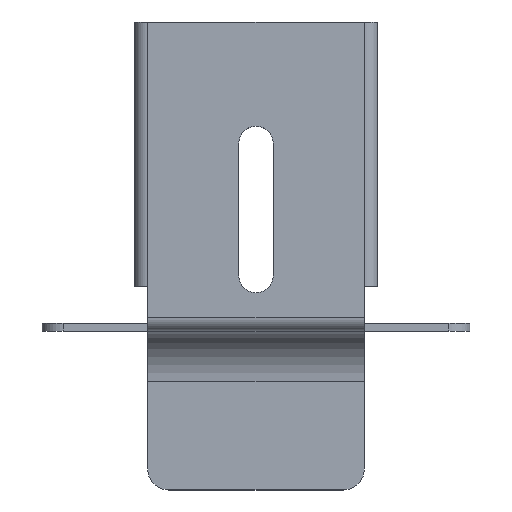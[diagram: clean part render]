
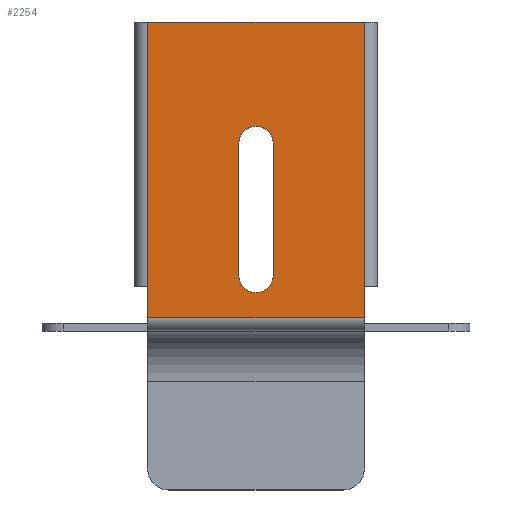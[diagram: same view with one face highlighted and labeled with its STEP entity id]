
A CAD part, top view. The second image highlights one B-rep face of the part: STEP entity #2254.
In plain terms, the highlighted planar face has unit normal (0, 0, 1).
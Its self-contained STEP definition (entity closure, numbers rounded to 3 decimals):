
#8 = VECTOR ( 'NONE', #2441, 1000. ) ;
#11 = DIRECTION ( 'NONE',  ( 0., 1., 0. ) ) ;
#98 = LINE ( 'NONE', #760, #680 ) ;
#123 = ORIENTED_EDGE ( 'NONE', *, *, #454, .T. ) ;
#142 = VERTEX_POINT ( 'NONE', #2347 ) ;
#210 = VERTEX_POINT ( 'NONE', #329 ) ;
#226 = LINE ( 'NONE', #649, #1685 ) ;
#234 = ORIENTED_EDGE ( 'NONE', *, *, #2168, .T. ) ;
#242 = EDGE_CURVE ( 'NONE', #142, #1368, #98, .T. ) ;
#329 = CARTESIAN_POINT ( 'NONE',  ( 3.25, -23., 0. ) ) ;
#334 = VERTEX_POINT ( 'NONE', #958 ) ;
#360 = LINE ( 'NONE', #547, #2472 ) ;
#435 = ORIENTED_EDGE ( 'NONE', *, *, #1743, .F. ) ;
#454 = EDGE_CURVE ( 'NONE', #563, #2051, #1193, .T. ) ;
#459 = CARTESIAN_POINT ( 'NONE',  ( 20.5, -25., 0. ) ) ;
#512 = CARTESIAN_POINT ( 'NONE',  ( 20.5, -25., 0. ) ) ;
#547 = CARTESIAN_POINT ( 'NONE',  ( -20.5, -31., 0. ) ) ;
#555 = DIRECTION ( 'NONE',  ( 1., 0., 0. ) ) ;
#563 = VERTEX_POINT ( 'NONE', #2475 ) ;
#583 = DIRECTION ( 'NONE',  ( 0., -1., 0. ) ) ;
#613 = DIRECTION ( 'NONE',  ( -1., 0., 0. ) ) ;
#616 = CARTESIAN_POINT ( 'NONE',  ( -20.5, 25., 0. ) ) ;
#645 = AXIS2_PLACEMENT_3D ( 'NONE', #1802, #797, #555 ) ;
#649 = CARTESIAN_POINT ( 'NONE',  ( 20.5, -31., 0. ) ) ;
#657 = EDGE_LOOP ( 'NONE', ( #123, #2482, #1576, #1831, #234, #1471 ) ) ;
#680 = VECTOR ( 'NONE', #1602, 1000. ) ;
#760 = CARTESIAN_POINT ( 'NONE',  ( -3.25, 2., 0. ) ) ;
#797 = DIRECTION ( 'NONE',  ( 0., 0., 1. ) ) ;
#810 = EDGE_CURVE ( 'NONE', #1855, #563, #1125, .T. ) ;
#862 = VECTOR ( 'NONE', #583, 1000. ) ;
#874 = LINE ( 'NONE', #459, #1877 ) ;
#890 = CARTESIAN_POINT ( 'NONE',  ( -20.5, -25., 0. ) ) ;
#908 = FACE_BOUND ( 'NONE', #1600, .T. ) ;
#951 = VERTEX_POINT ( 'NONE', #2630 ) ;
#958 = CARTESIAN_POINT ( 'NONE',  ( 20.5, -31., 0. ) ) ;
#982 = VERTEX_POINT ( 'NONE', #2458 ) ;
#1068 = FACE_OUTER_BOUND ( 'NONE', #657, .T. ) ;
#1076 = LINE ( 'NONE', #1791, #1274 ) ;
#1125 = LINE ( 'NONE', #2447, #2366 ) ;
#1193 = LINE ( 'NONE', #616, #862 ) ;
#1274 = VECTOR ( 'NONE', #11, 1000. ) ;
#1307 = ORIENTED_EDGE ( 'NONE', *, *, #242, .F. ) ;
#1318 = EDGE_CURVE ( 'NONE', #1368, #210, #2013, .T. ) ;
#1330 = DIRECTION ( 'NONE',  ( -1., 0., 0. ) ) ;
#1331 = EDGE_CURVE ( 'NONE', #210, #982, #1076, .T. ) ;
#1358 = DIRECTION ( 'NONE',  ( 0., 1., 0. ) ) ;
#1368 = VERTEX_POINT ( 'NONE', #1456 ) ;
#1382 = DIRECTION ( 'NONE',  ( 0., 0., 1. ) ) ;
#1412 = ORIENTED_EDGE ( 'NONE', *, *, #1331, .F. ) ;
#1455 = CARTESIAN_POINT ( 'NONE',  ( -20.5, -31., 0. ) ) ;
#1456 = CARTESIAN_POINT ( 'NONE',  ( -3.25, -23., 0. ) ) ;
#1471 = ORIENTED_EDGE ( 'NONE', *, *, #810, .T. ) ;
#1509 = ORIENTED_EDGE ( 'NONE', *, *, #1318, .F. ) ;
#1576 = ORIENTED_EDGE ( 'NONE', *, *, #1990, .T. ) ;
#1600 = EDGE_LOOP ( 'NONE', ( #1307, #435, #1412, #1509 ) ) ;
#1602 = DIRECTION ( 'NONE',  ( 0., -1., 0. ) ) ;
#1630 = LINE ( 'NONE', #1455, #8 ) ;
#1684 = DIRECTION ( 'NONE',  ( 0., 1., 0. ) ) ;
#1685 = VECTOR ( 'NONE', #1358, 1000. ) ;
#1742 = EDGE_CURVE ( 'NONE', #951, #2051, #360, .T. ) ;
#1743 = EDGE_CURVE ( 'NONE', #982, #142, #1951, .T. ) ;
#1754 = CARTESIAN_POINT ( 'NONE',  ( 0., 2., 0. ) ) ;
#1791 = CARTESIAN_POINT ( 'NONE',  ( 3.25, 2., 0. ) ) ;
#1802 = CARTESIAN_POINT ( 'NONE',  ( 0., -23., 0. ) ) ;
#1809 = CARTESIAN_POINT ( 'NONE',  ( 20.5, 25., 0. ) ) ;
#1831 = ORIENTED_EDGE ( 'NONE', *, *, #2312, .T. ) ;
#1855 = VERTEX_POINT ( 'NONE', #1809 ) ;
#1877 = VECTOR ( 'NONE', #1684, 1000. ) ;
#1944 = DIRECTION ( 'NONE',  ( 0., 0., -1. ) ) ;
#1950 = AXIS2_PLACEMENT_3D ( 'NONE', #1754, #1382, #2209 ) ;
#1951 = CIRCLE ( 'NONE', #1950, 3.25 ) ;
#1990 = EDGE_CURVE ( 'NONE', #951, #334, #1630, .T. ) ;
#2003 = DIRECTION ( 'NONE',  ( 0., 1., 0. ) ) ;
#2013 = CIRCLE ( 'NONE', #645, 3.25 ) ;
#2051 = VERTEX_POINT ( 'NONE', #890 ) ;
#2103 = AXIS2_PLACEMENT_3D ( 'NONE', #2553, #1944, #1330 ) ;
#2168 = EDGE_CURVE ( 'NONE', #2587, #1855, #874, .T. ) ;
#2209 = DIRECTION ( 'NONE',  ( 1., 0., 0. ) ) ;
#2254 = ADVANCED_FACE ( 'NONE', ( #908, #1068 ), #2348, .F. ) ;
#2312 = EDGE_CURVE ( 'NONE', #334, #2587, #226, .T. ) ;
#2347 = CARTESIAN_POINT ( 'NONE',  ( -3.25, 2., 0. ) ) ;
#2348 = PLANE ( 'NONE',  #2103 ) ;
#2366 = VECTOR ( 'NONE', #613, 1000. ) ;
#2441 = DIRECTION ( 'NONE',  ( 1., 0., 0. ) ) ;
#2447 = CARTESIAN_POINT ( 'NONE',  ( -21.5, 25., 0. ) ) ;
#2458 = CARTESIAN_POINT ( 'NONE',  ( 3.25, 2., 0. ) ) ;
#2472 = VECTOR ( 'NONE', #2003, 1000. ) ;
#2475 = CARTESIAN_POINT ( 'NONE',  ( -20.5, 25., 0. ) ) ;
#2482 = ORIENTED_EDGE ( 'NONE', *, *, #1742, .F. ) ;
#2553 = CARTESIAN_POINT ( 'NONE',  ( 21.5, 25., 0. ) ) ;
#2587 = VERTEX_POINT ( 'NONE', #512 ) ;
#2630 = CARTESIAN_POINT ( 'NONE',  ( -20.5, -31., 0. ) ) ;
